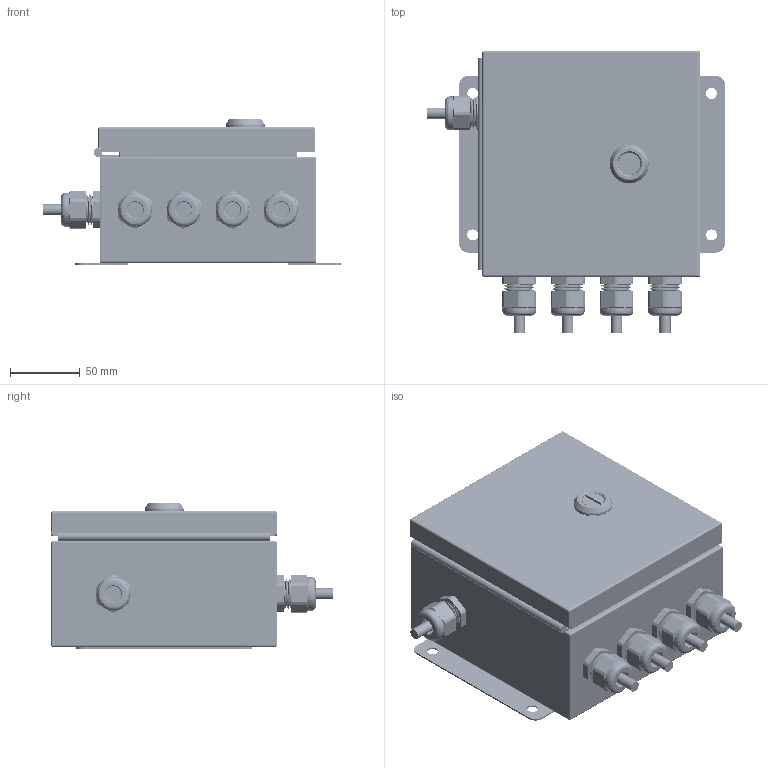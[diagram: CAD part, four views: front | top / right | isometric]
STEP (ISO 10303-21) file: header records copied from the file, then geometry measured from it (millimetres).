
FILE_DESCRIPTION (( 'STEP AP203' ), '1' );
FILE_NAME ('HI6020JB-SS2.STEP', '2023-09-28T20:09:32', ( '' ), ( '' ), 'SwSTEP 2.0', 'SolidWorks 2020', '' );
FILE_SCHEMA (( 'CONFIG_CONTROL_DESIGN' ));
Products named in the file (34): Southco-E5-6-0024-UU1_Nut_clf_STD-QTL-NUT_1; 4617-0010-0; QTL-HOUSING-ASSY_97H9230-26300_1; 0534-0573-01-0; 0529-0024-01-0; hardy-flange_MFW-HOL-00409_1; 2817-0182_90400A219; 2814-0095-0; 0508-0929-05-0_Default_DOOR CLOSED; blind standoff_pmi_97H5125-26300_1; 2140-0137-07-0; hex nut_ai_97H1112-27ZA3_1; 0508-0929-XX-006_ENCLOSURE DOOR GASKET; machine screw nut hex_ai_97H1401-26188_1; Southco-E5-6-0024-UU1_E5_Plastic_Driver(Slotted)_clf_STD-QTL-SLOTTED-INSERT_1; 0508-0929-05-0_ENCLOSURE CASE_0508-0929-05-0_ENCLOSURE CASE; 97H9231-27ZA3_12C6_1; 1658A6_Piano Hinge with Holes_KEEP-A_1; Southco-E5-6-0024-UU1_O-Ring_clf_97H9930-13VIT_1; 0530-0710-01-0; 0535-0573-XX-0; flush stud_pmi_97H7202-26188_1; HI6020XX-SSY Model-Serial Label; Southco-E5-6-0024-UU1_E5_Phillips_Slot_Hex_Screw_clf_STD-QTL-SCREW_1; 2140-0137-09-0; flush stud_pmi_97H7301-26188_1; HI6020JB-SS2; 2140-0136-07-0; Southco-E5-6-0024-UU1_E5_Sealing_Washer(Compressed)_clf_1; 0508-0929-XX-002_ENCLOSURE DOOR; BRKY-00409_BRKT-00409_1; 1658A6_Piano Hinge with Holes_KEEP-B_1; 6007-0097-0; Southco-E5-6-0024-UU1_E5_Plastic_Housing_clf_STD-QTL-HOUSING_1
Assembly tree (66 placements, depth 4):
  HI6020JB-SS2
    0535-0573-XX-0
      0534-0573-01-0
      4617-0010-0  x4
      2140-0136-07-0  x4
      2140-0137-07-0  x4
      2140-0137-09-0  x2
    2817-0182_90400A219  x4
    HI6020XX-SSY Model-Serial Label
    0530-0710-01-0
    6007-0097-0  x5
    2814-0095-0  x5
    0529-0024-01-0  x5
    0508-0929-05-0_Default_DOOR CLOSED
      0508-0929-05-0_ENCLOSURE CASE_0508-0929-05-0_ENCLOSURE CASE
      flush stud_pmi_97H7202-26188_1  x2
      flush stud_pmi_97H7301-26188_1  x2
      hardy-flange_MFW-HOL-00409_1  x2
      BRKY-00409_BRKT-00409_1
      blind standoff_pmi_97H5125-26300_1  x4
      machine screw nut hex_ai_97H1401-26188_1  x2
      hex nut_ai_97H1112-27ZA3_1  x2
      1658A6_Piano Hinge with Holes_KEEP-A_1
      1658A6_Piano Hinge with Holes_KEEP-B_1
      0508-0929-XX-002_ENCLOSURE DOOR
      97H9231-27ZA3_12C6_1
      QTL-HOUSING-ASSY_97H9230-26300_1
        Southco-E5-6-0024-UU1_E5_Plastic_Driver(Slotted)_clf_STD-QTL-SLOTTED-INSERT_1
        Southco-E5-6-0024-UU1_E5_Sealing_Washer(Compressed)_clf_1
        Southco-E5-6-0024-UU1_Nut_clf_STD-QTL-NUT_1
        Southco-E5-6-0024-UU1_E5_Plastic_Housing_clf_STD-QTL-HOUSING_1
        Southco-E5-6-0024-UU1_E5_Phillips_Slot_Hex_Screw_clf_STD-QTL-SCREW_1
        Southco-E5-6-0024-UU1_O-Ring_clf_97H9930-13VIT_1
      0508-0929-XX-006_ENCLOSURE DOOR GASKET
Bounding box: 213.8 x 203.09 x 104.41 mm (x, y, z)
Volume: 346937.4 mm3; surface area: 458980.7 mm2
Topology: 602 solids, 606 shells, 16408 faces, 42398 edges, 27737 vertices
Faces by surface type: plane 9355, bspline 3634, cylinder 2765, cone 458, torus 124, sphere 72
Entity records: 462628 total; most frequent: CARTESIAN_POINT 208006, ORIENTED_EDGE 57880, DIRECTION 39184, EDGE_CURVE 28940, VERTEX_POINT 19070, LINE 18644, VECTOR 18644, EDGE_LOOP 11954
